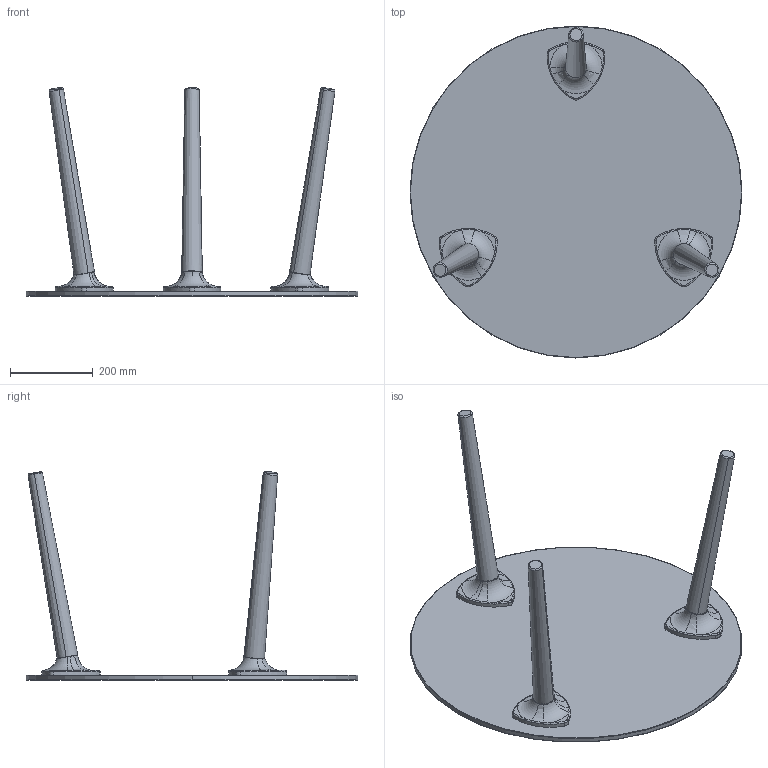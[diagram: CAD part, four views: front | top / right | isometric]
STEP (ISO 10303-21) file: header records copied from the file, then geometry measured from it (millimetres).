
FILE_DESCRIPTION (( 'STEP AP203' ), '1' );
FILE_NAME ('STEFANO3-POD_H50_D80.STEP', '2014-11-28T15:44:16', ( '' ), ( '' ), 'SwSTEP 2.0', 'SolidWorks 2014', '' );
FILE_SCHEMA (( 'CONFIG_CONTROL_DESIGN' ));
Length unit declared in the file: millimetre
Products named in the file (5): PIANO 80; STEFANO3-POD_H50_D80; RACCORDO IN PLASTICA; GAMBA LEGNO; ASSIEME GAMBA
Assembly tree (6 placements, depth 3):
  STEFANO3-POD_H50_D80
    PIANO 80
    ASSIEME GAMBA  x3
      RACCORDO IN PLASTICA
      GAMBA LEGNO
Bounding box: 800 x 800 x 502.71 mm (x, y, z)
Volume: 8656999.6 mm3; surface area: 1342918.9 mm2
Topology: 7 solids, 7 shells, 164 faces, 368 edges, 218 vertices
Faces by surface type: bspline 54, torus 52, cylinder 29, plane 23, cone 6
Entity records: 2969 total; most frequent: CARTESIAN_POINT 1132, DIRECTION 289, ORIENTED_EDGE 264, AXIS2_PLACEMENT_3D 138, EDGE_CURVE 132, CIRCLE 86, VERTEX_POINT 78, EDGE_LOOP 62
